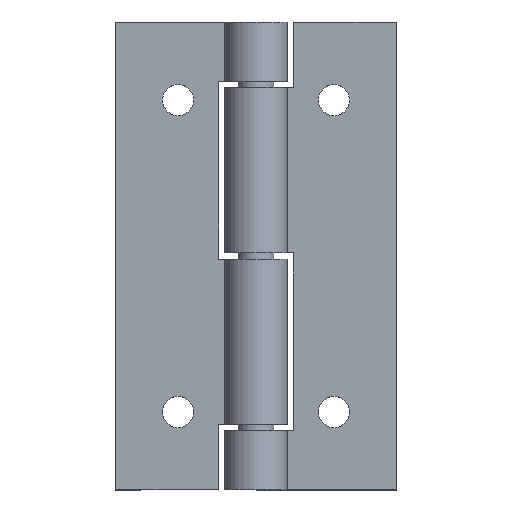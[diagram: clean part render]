
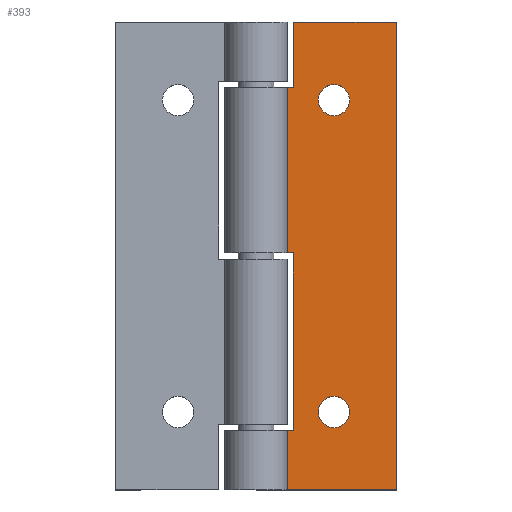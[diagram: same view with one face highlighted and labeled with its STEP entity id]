
A CAD part, top view. The second image highlights one B-rep face of the part: STEP entity #393.
In plain terms, the highlighted planar face has unit normal (0, 0, 1).
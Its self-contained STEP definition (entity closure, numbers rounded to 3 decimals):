
#43=CIRCLE('',#444,0.5);
#44=CIRCLE('',#445,0.5);
#67=ORIENTED_EDGE('',*,*,#167,.F.);
#68=ORIENTED_EDGE('',*,*,#168,.F.);
#69=ORIENTED_EDGE('',*,*,#169,.F.);
#70=ORIENTED_EDGE('',*,*,#170,.F.);
#71=ORIENTED_EDGE('',*,*,#171,.F.);
#72=ORIENTED_EDGE('',*,*,#172,.F.);
#73=ORIENTED_EDGE('',*,*,#173,.F.);
#74=ORIENTED_EDGE('',*,*,#174,.T.);
#75=ORIENTED_EDGE('',*,*,#175,.T.);
#76=ORIENTED_EDGE('',*,*,#176,.F.);
#77=ORIENTED_EDGE('',*,*,#177,.F.);
#78=ORIENTED_EDGE('',*,*,#178,.F.);
#167=EDGE_CURVE('',#217,#217,#43,.T.);
#168=EDGE_CURVE('',#218,#218,#44,.T.);
#169=EDGE_CURVE('',#219,#220,#253,.T.);
#170=EDGE_CURVE('',#221,#219,#254,.T.);
#171=EDGE_CURVE('',#222,#221,#255,.T.);
#172=EDGE_CURVE('',#223,#222,#256,.T.);
#173=EDGE_CURVE('',#224,#223,#257,.T.);
#174=EDGE_CURVE('',#224,#225,#258,.T.);
#175=EDGE_CURVE('',#225,#226,#259,.T.);
#176=EDGE_CURVE('',#227,#226,#260,.T.);
#177=EDGE_CURVE('',#228,#227,#261,.T.);
#178=EDGE_CURVE('',#220,#228,#262,.T.);
#217=VERTEX_POINT('',#624);
#218=VERTEX_POINT('',#626);
#219=VERTEX_POINT('',#628);
#220=VERTEX_POINT('',#629);
#221=VERTEX_POINT('',#631);
#222=VERTEX_POINT('',#633);
#223=VERTEX_POINT('',#635);
#224=VERTEX_POINT('',#637);
#225=VERTEX_POINT('',#639);
#226=VERTEX_POINT('',#641);
#227=VERTEX_POINT('',#643);
#228=VERTEX_POINT('',#645);
#253=LINE('',#627,#287);
#254=LINE('',#630,#288);
#255=LINE('',#632,#289);
#256=LINE('',#634,#290);
#257=LINE('',#636,#291);
#258=LINE('',#638,#292);
#259=LINE('',#640,#293);
#260=LINE('',#642,#294);
#261=LINE('',#644,#295);
#262=LINE('',#646,#296);
#287=VECTOR('',#503,1000.);
#288=VECTOR('',#504,1000.);
#289=VECTOR('',#505,1000.);
#290=VECTOR('',#506,1000.);
#291=VECTOR('',#507,1000.);
#292=VECTOR('',#508,1000.);
#293=VECTOR('',#509,1000.);
#294=VECTOR('',#510,1000.);
#295=VECTOR('',#511,1000.);
#296=VECTOR('',#512,1000.);
#315=EDGE_LOOP('',(#67));
#316=EDGE_LOOP('',(#68));
#317=EDGE_LOOP('',(#69,#70,#71,#72,#73,#74,#75,#76,#77,#78));
#347=FACE_BOUND('',#315,.T.);
#348=FACE_BOUND('',#316,.T.);
#349=FACE_BOUND('',#317,.T.);
#379=PLANE('',#443);
#393=ADVANCED_FACE('',(#347,#348,#349),#379,.F.);
#443=AXIS2_PLACEMENT_3D('',#622,#497,#498);
#444=AXIS2_PLACEMENT_3D('',#623,#499,#500);
#445=AXIS2_PLACEMENT_3D('',#625,#501,#502);
#497=DIRECTION('',(0.,0.,-1.));
#498=DIRECTION('',(-1.,0.,0.));
#499=DIRECTION('',(0.,0.,1.));
#500=DIRECTION('',(1.,0.,0.));
#501=DIRECTION('',(0.,0.,1.));
#502=DIRECTION('',(1.,0.,0.));
#503=DIRECTION('',(-1.,0.,0.));
#504=DIRECTION('',(0.,1.,0.));
#505=DIRECTION('',(1.,0.,0.));
#506=DIRECTION('',(0.,1.,0.));
#507=DIRECTION('',(-1.,0.,0.));
#508=DIRECTION('',(0.,1.,0.));
#509=DIRECTION('',(-1.,0.,0.));
#510=DIRECTION('',(0.,1.,0.));
#511=DIRECTION('',(1.,0.,0.));
#512=DIRECTION('',(0.,1.,0.));
#622=CARTESIAN_POINT('',(0.,0.,0.4));
#623=CARTESIAN_POINT('',(-2.,2.5,0.4));
#624=CARTESIAN_POINT('',(-1.5,2.5,0.4));
#625=CARTESIAN_POINT('',(-2.,12.5,0.4));
#626=CARTESIAN_POINT('',(-1.5,12.5,0.4));
#627=CARTESIAN_POINT('',(0.,7.6,0.4));
#628=CARTESIAN_POINT('',(-3.3,7.6,0.4));
#629=CARTESIAN_POINT('',(-4.5,7.6,0.4));
#630=CARTESIAN_POINT('',(-3.3,0.,0.4));
#631=CARTESIAN_POINT('',(-3.3,1.9,0.4));
#632=CARTESIAN_POINT('',(0.,1.9,0.4));
#633=CARTESIAN_POINT('',(-4.5,1.9,0.4));
#634=CARTESIAN_POINT('',(-4.5,0.,0.4));
#635=CARTESIAN_POINT('',(-4.5,0.,0.4));
#636=CARTESIAN_POINT('',(0.,0.,0.4));
#637=CARTESIAN_POINT('',(0.,0.,0.4));
#638=CARTESIAN_POINT('',(0.,0.,0.4));
#639=CARTESIAN_POINT('',(0.,15.,0.4));
#640=CARTESIAN_POINT('',(0.,15.,0.4));
#641=CARTESIAN_POINT('',(-3.3,15.,0.4));
#642=CARTESIAN_POINT('',(-3.3,0.,0.4));
#643=CARTESIAN_POINT('',(-3.3,12.9,0.4));
#644=CARTESIAN_POINT('',(0.,12.9,0.4));
#645=CARTESIAN_POINT('',(-4.5,12.9,0.4));
#646=CARTESIAN_POINT('',(-4.5,0.,0.4));
